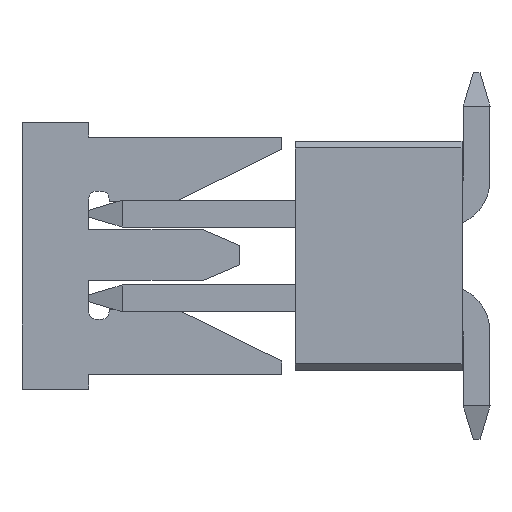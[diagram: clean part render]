
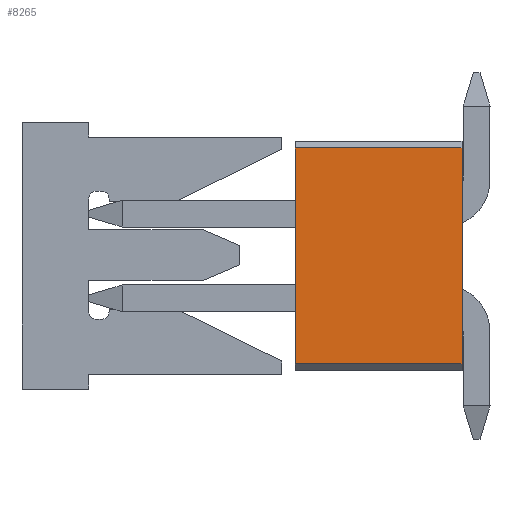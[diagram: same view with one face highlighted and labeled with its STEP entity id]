
A CAD part, left-side view. The second image highlights one B-rep face of the part: STEP entity #8265.
In plain terms, the highlighted planar face has unit normal (-1, 0, 0).
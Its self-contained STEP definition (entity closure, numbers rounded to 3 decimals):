
#291 = EDGE_CURVE ( 'NONE', #7163, #7150, #4845, .T. ) ;
#308 = EDGE_CURVE ( 'NONE', #7179, #7150, #4850, .T. ) ;
#359 = EDGE_CURVE ( 'NONE', #7153, #7163, #5030, .T. ) ;
#855 = EDGE_LOOP ( 'NONE', ( #6790, #6746, #6737, #6797 ) ) ;
#2034 = DIRECTION ( 'NONE',  ( 0., 0., 1. ) ) ;
#2041 = FACE_OUTER_BOUND ( 'NONE', #855, .T. ) ;
#2042 = DIRECTION ( 'NONE',  ( -1., 0., 0. ) ) ;
#2044 = PLANE ( 'NONE',  #2876 ) ;
#2072 = CARTESIAN_POINT ( 'NONE',  ( 81.074, 0., -129.379 ) ) ;
#2876 = AXIS2_PLACEMENT_3D ( 'NONE', #2072, #2042, #2034 ) ;
#3537 = CARTESIAN_POINT ( 'NONE',  ( 81.074, 0., -126.139 ) ) ;
#3547 = CARTESIAN_POINT ( 'NONE',  ( 81.074, 0., -129.379 ) ) ;
#3570 = CARTESIAN_POINT ( 'NONE',  ( 81.074, 2.5, -126.139 ) ) ;
#3574 = CARTESIAN_POINT ( 'NONE',  ( 81.074, 2.5, -129.379 ) ) ;
#3738 = CARTESIAN_POINT ( 'NONE',  ( 81.074, 0., -129.379 ) ) ;
#3740 = DIRECTION ( 'NONE',  ( 0., -1., 0. ) ) ;
#3748 = LINE ( 'NONE', #3738, #7822 ) ;
#4839 = DIRECTION ( 'NONE',  ( 0., 1., 0. ) ) ;
#4845 = LINE ( 'NONE', #4856, #7633 ) ;
#4850 = LINE ( 'NONE', #4907, #7697 ) ;
#4856 = CARTESIAN_POINT ( 'NONE',  ( 81.074, 0., -126.139 ) ) ;
#4907 = CARTESIAN_POINT ( 'NONE',  ( 81.074, 2.5, -129.482 ) ) ;
#4918 = DIRECTION ( 'NONE',  ( 0., 0., 1. ) ) ;
#5030 = LINE ( 'NONE', #5048, #7782 ) ;
#5048 = CARTESIAN_POINT ( 'NONE',  ( 81.074, 0., -129.379 ) ) ;
#5049 = DIRECTION ( 'NONE',  ( 0., 0., 1. ) ) ;
#6737 = ORIENTED_EDGE ( 'NONE', *, *, #359, .T. ) ;
#6746 = ORIENTED_EDGE ( 'NONE', *, *, #7978, .T. ) ;
#6790 = ORIENTED_EDGE ( 'NONE', *, *, #308, .F. ) ;
#6797 = ORIENTED_EDGE ( 'NONE', *, *, #291, .T. ) ;
#7150 = VERTEX_POINT ( 'NONE', #3570 ) ;
#7153 = VERTEX_POINT ( 'NONE', #3547 ) ;
#7163 = VERTEX_POINT ( 'NONE', #3537 ) ;
#7179 = VERTEX_POINT ( 'NONE', #3574 ) ;
#7633 = VECTOR ( 'NONE', #4839, 1000. ) ;
#7697 = VECTOR ( 'NONE', #4918, 1000. ) ;
#7782 = VECTOR ( 'NONE', #5049, 1000. ) ;
#7822 = VECTOR ( 'NONE', #3740, 1000. ) ;
#7978 = EDGE_CURVE ( 'NONE', #7179, #7153, #3748, .T. ) ;
#8265 = ADVANCED_FACE ( 'NONE', ( #2041 ), #2044, .T. ) ;
